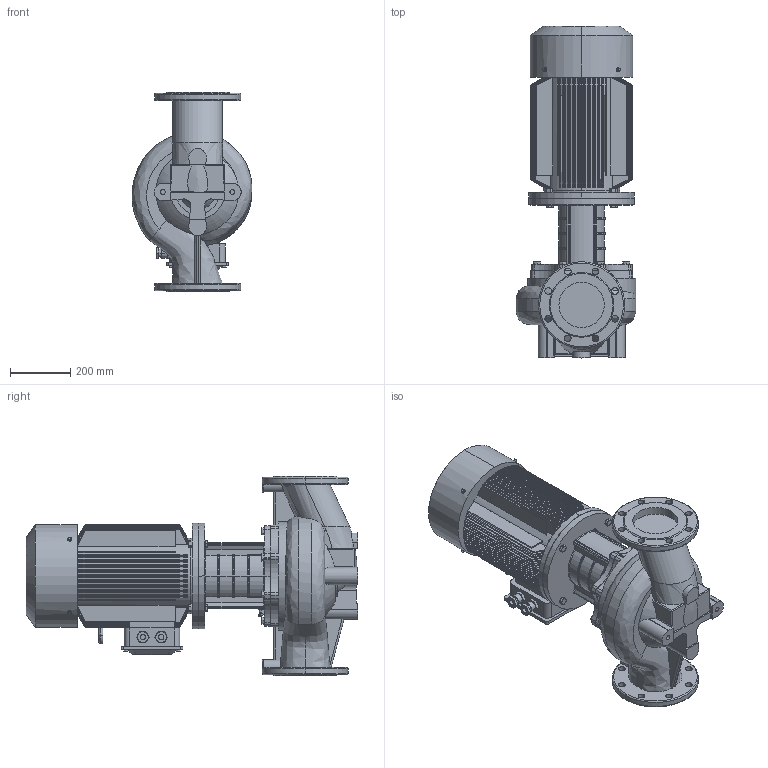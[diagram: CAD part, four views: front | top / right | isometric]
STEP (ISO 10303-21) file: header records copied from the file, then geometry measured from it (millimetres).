
FILE_DESCRIPTION (( 'STEP AP203' ), '1' );
FILE_NAME ('TD150-12.5G／4.STEP', '2026-09-07T02:56:30', ( '' ), ( '' ), 'SwSTEP 2.0', 'SolidWorks 2020', '' );
FILE_SCHEMA (( 'CONFIG_CONTROL_DESIGN' ));
Products named in the file (1): TD150-12.5Gㄞ4
Bounding box: 397.2 x 1099 x 660 mm (x, y, z)
Volume: 84468752.2 mm3; surface area: 4362634.2 mm2
Topology: 1 solids, 9 shells, 1783 faces, 4504 edges, 2762 vertices
Faces by surface type: plane 690, cylinder 488, cone 411, torus 116, sphere 46, bspline 32
Entity records: 74834 total; most frequent: CARTESIAN_POINT 32948, ORIENTED_EDGE 8920, DIRECTION 8683, EDGE_CURVE 4460, AXIS2_PLACEMENT_3D 3470, VERTEX_POINT 2754, EDGE_LOOP 1886, ADVANCED_FACE 1783
